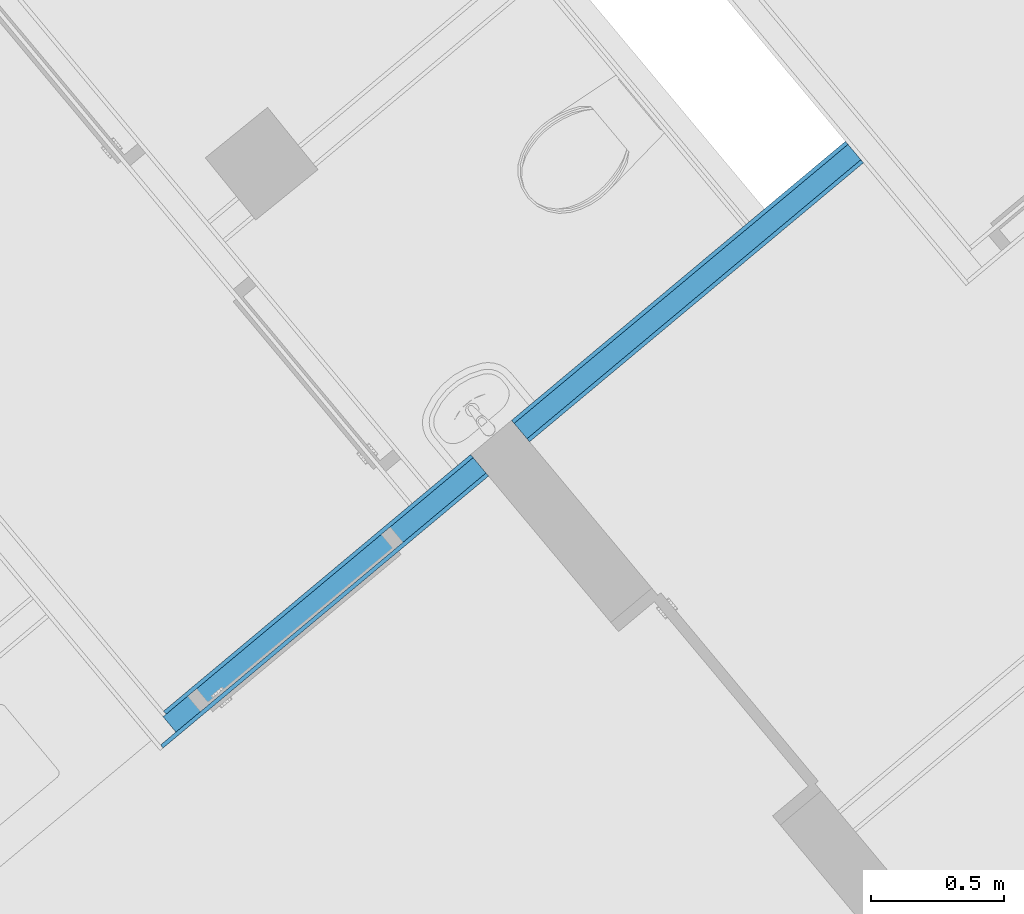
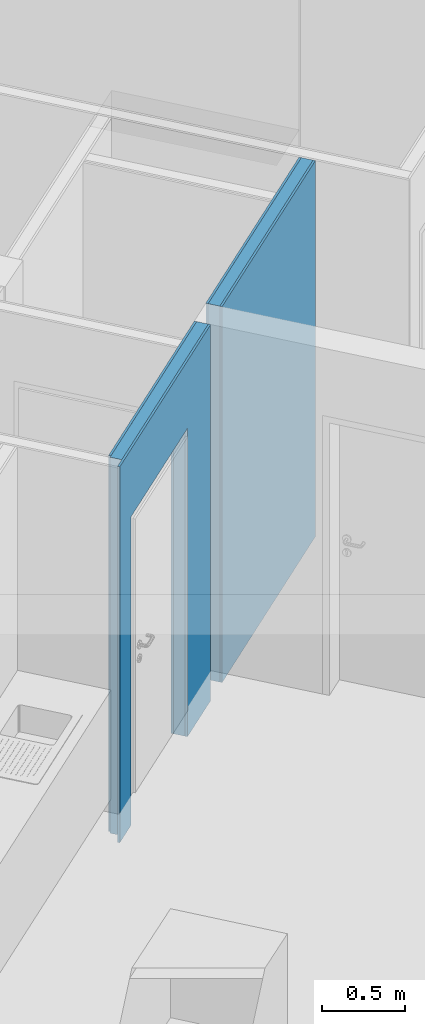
# One storey, part 9 of 50: 3 building element parts, 1 opening, 1 element without a shape of its own.
"""IFC4 building model written with IfcOpenShell, lengths in metres."""

from ifc_helpers import new_model, entity, si_unit, converted_unit, derived_unit, direction, frame, origin_with_axes, place, context, subcontext, project, spatial, polygons, material, type_object, element, aggregate, save


model = new_model("IFC4")

# Units and contexts
model_context = context("Model", 3, precision=1e-05, world=origin_with_axes(), true_north=direction((0.0, 1.0)))
body_context = subcontext(model_context, "Body", "Model", "MODEL_VIEW")
ifc_project = project(units=[si_unit("LENGTHUNIT", "METRE"), si_unit("AREAUNIT", "SQUARE_METRE"), si_unit("VOLUMEUNIT", "CUBIC_METRE"), converted_unit("PLANEANGLEUNIT", "DEGREE", entity("IfcPlaneAngleMeasure", 0.0174532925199), si_unit("PLANEANGLEUNIT", "RADIAN"), dimensions=[0, 0, 0, 0, 0, 0, 0]), converted_unit("TIMEUNIT", "Year", entity("IfcTimeMeasure", 31556926.0), si_unit("TIMEUNIT", "SECOND"), dimensions=[0, 0, 1, 0, 0, 0, 0]), si_unit("MASSUNIT", "GRAM", prefix="KILO"), si_unit("THERMODYNAMICTEMPERATUREUNIT", "DEGREE_CELSIUS"), si_unit("LUMINOUSINTENSITYUNIT", "LUMEN"), si_unit("ENERGYUNIT", "JOULE", prefix="MEGA"), derived_unit("THERMALCONDUCTANCEUNIT", [(si_unit("POWERUNIT", "WATT"), 1), (si_unit("LENGTHUNIT", "METRE"), -1), (si_unit("THERMODYNAMICTEMPERATUREUNIT", "KELVIN"), -1)]), derived_unit("SPECIFICHEATCAPACITYUNIT", [(si_unit("ENERGYUNIT", "JOULE"), 1), (si_unit("MASSUNIT", "GRAM", prefix="KILO"), -1), (si_unit("THERMODYNAMICTEMPERATUREUNIT", "KELVIN"), -1)]), derived_unit("MASSDENSITYUNIT", [(si_unit("MASSUNIT", "GRAM", prefix="KILO"), 1), (si_unit("VOLUMEUNIT", "CUBIC_METRE"), -1)])], contexts=[model_context])

# Site, building, storey
site_placement = place(None, frame((-0.00153261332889, -0.00661245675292, 0.0), z_axis=(0.0, 0.0, 1.0), x_axis=(1.0, 0.0, 0.0)))
site = spatial("IfcSite", under=ifc_project, at=site_placement, Name="Site", CompositionType="ELEMENT")
building_placement = place(site_placement, origin_with_axes())
building = spatial("IfcBuilding", under=site, at=building_placement, Name="Building", CompositionType="ELEMENT")
storey_placement = place(building_placement, frame((0.0, 0.0, 2.74), z_axis=(0.0, 0.0, 1.0), x_axis=(1.0, 0.0, 0.0)))
storey = spatial("IfcBuildingStorey", under=building, at=storey_placement, Name="OG1", CompositionType="ELEMENT", Elevation=2.74)

# Wall, opening, building element parts
wall_type = type_object("IfcWallType", Name="IW LB 01 Leichtbautrennwand einfach 10,5 cm 105", PredefinedType="NOTDEFINED")
wall_placement = place(storey_placement, frame((-2.08312731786, 16.7658353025, 0.0), z_axis=(0.0, 0.0, 1.0), x_axis=(0.767365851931, 0.641209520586, 0.0)))
wall = element("IfcWall", 1, at=wall_placement, inside=storey, type_object=wall_type, Name="Wand-012", PredefinedType="NOTDEFINED")
opening_placement = place(wall_placement, frame((0.704535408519, 0.0, 0.22), z_axis=(0.0, 0.0, 1.0), x_axis=(1.0, 0.0, 0.0)))
element("IfcOpeningElement", 2, at=opening_placement, cuts=wall, Name="Tür-017", context=body_context, identifier="Reference", shape_type="Tessellation", body=[
    polygons([(0.495, 1.6911768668, 2.045), (0.495, 1.6911768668, -0.22), (-0.495, 1.6911768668, -0.22), (-0.495, 1.6911768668, 2.045), (0.495, -1.7961768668, 2.045), (0.495, -1.7961768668, -0.22), (-0.495, -1.7961768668, -0.22), (-0.495, -1.7961768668, 2.045)], [[[1, 2, 3, 4]], [[5, 6, 2, 1]], [[6, 7, 3, 2]], [[7, 8, 4, 3]], [[8, 5, 1, 4]], [[7, 6, 5, 8]]], closed=True),
])
ifc_material_1 = material(Name="Gipskarton")
building_element_part_1_placement = place(wall_placement, origin_with_axes())
building_element_part_1 = element("IfcBuildingElementPart", 3, at=building_element_part_1_placement, material=ifc_material_1, Name="Gipskarton", PredefinedType="NOTDEFINED", context=body_context, shape_type="Tessellation", body=[
    polygons([(0.209535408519, -0.015, 0.22), (0.209535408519, -0.015, 2.265), (1.19953540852, -0.015, 2.265), (1.19953540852, -0.015, 0.22), (1.19953540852, -0.015, 0.0), (1.60433833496, -0.015, 0.0), (1.60433833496, -0.015, 2.76), (0.105, -0.015, 2.76), (0.105, -0.015, 0.0), (0.209535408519, -0.015, 0.0), (0.209535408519, 7.71001129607e-08, 0.22), (0.209535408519, -3.17419406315e-08, 2.265), (1.19953540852, -3.17419441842e-08, 2.265), (1.19953540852, -3.17419441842e-08, 0.22), (1.19953540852, -3.17419424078e-08, 0.0), (1.60433833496, 0.0, 0.0), (1.60433833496, 0.0, 2.76), (0.105, 0.0, 2.76), (0.105, 0.0, 0.0), (0.209535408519, 7.71001129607e-08, 0.0)], [[[1, 2, 3, 4, 5, 6, 7, 8, 9, 10]], [[2, 1, 11, 12]], [[3, 2, 12, 13]], [[4, 3, 13, 14]], [[4, 14, 15, 5]], [[15, 16, 6, 5]], [[7, 6, 16, 17]], [[17, 18, 8, 7]], [[8, 18, 19, 9]], [[10, 9, 19, 20]], [[11, 1, 10, 20]], [[12, 11, 20, 19, 18, 17, 16, 15, 14, 13]]], closed=True),
    polygons([(3.43502357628, 0.0, 2.76), (1.80433833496, 0.0, 2.76), (1.80433833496, -0.015, 2.76), (3.43502357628, -0.015, 2.76), (3.43502357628, 0.0, 0.0), (1.80433833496, 0.0, 0.0), (1.80433833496, -0.015, 0.0), (3.43502357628, -0.015, 0.0)], [[[1, 2, 3, 4]], [[5, 6, 2, 1]], [[3, 2, 6, 7]], [[4, 3, 7, 8]], [[4, 8, 5, 1]], [[8, 7, 6, 5]]], closed=True),
])
ifc_material_2 = material(Name="Mineralwolle weich")
building_element_part_2_placement = place(wall_placement, origin_with_axes())
building_element_part_2 = element("IfcBuildingElementPart", 4, at=building_element_part_2_placement, material=ifc_material_2, Name="Mineralwolle weich", PredefinedType="NOTDEFINED", context=body_context, shape_type="Tessellation", body=[
    polygons([(0.209535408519, -0.09, 0.22), (0.209535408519, -0.09, 2.265), (1.19953540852, -0.09, 2.265), (1.19953540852, -0.09, 0.22), (1.19953540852, -0.09, 0.0), (1.60433833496, -0.09, 0.0), (1.60433833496, -0.09, 2.76), (0.0899999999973, -0.09, 2.76), (0.0899999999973, -0.09, 0.0), (0.209535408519, -0.09, 0.0), (0.209535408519, -0.015, 0.22), (0.209535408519, -0.015, 2.265), (1.19953540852, -0.015, 2.265), (1.19953540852, -0.015, 0.22), (1.19953540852, -0.015, 0.0), (1.60433833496, -0.015, 0.0), (1.60433833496, -0.015, 2.76), (0.0899999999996, -0.015, 2.76), (0.0899999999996, -0.015, 0.0), (0.209535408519, -0.015, 0.0)], [[[1, 2, 3, 4, 5, 6, 7, 8, 9, 10]], [[2, 1, 11, 12]], [[3, 2, 12, 13]], [[4, 3, 13, 14]], [[4, 14, 15, 5]], [[15, 16, 6, 5]], [[7, 6, 16, 17]], [[17, 18, 8, 7]], [[8, 18, 19, 9]], [[10, 9, 19, 20]], [[11, 1, 10, 20]], [[12, 11, 20, 19, 18, 17, 16, 15, 14, 13]]], closed=True),
    polygons([(3.43502357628, -0.015, 2.76), (1.80433833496, -0.015, 2.76), (1.80433833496, -0.09, 2.76), (3.43502357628, -0.09, 2.76), (3.43502357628, -0.015, 0.0), (1.80433833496, -0.015, 0.0), (1.80433833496, -0.09, 0.0), (3.43502357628, -0.09, 0.0)], [[[1, 2, 3, 4]], [[5, 6, 2, 1]], [[3, 2, 6, 7]], [[4, 3, 7, 8]], [[4, 8, 5, 1]], [[8, 7, 6, 5]]], closed=True),
])
building_element_part_3_placement = place(wall_placement, origin_with_axes())
building_element_part_3 = element("IfcBuildingElementPart", 5, at=building_element_part_3_placement, material=ifc_material_1, Name="Gipskarton", PredefinedType="NOTDEFINED", context=body_context, shape_type="Tessellation", body=[
    polygons([(0.209535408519, -0.105, 0.22), (0.209535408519, -0.105, 2.265), (1.19953540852, -0.105, 2.265), (1.19953540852, -0.105, 0.22), (1.19953540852, -0.105, 0.0), (1.60433833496, -0.105, 0.0), (1.60433833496, -0.105, 2.76), (0.0149999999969, -0.105, 2.76), (0.0149999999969, -0.105, 0.0), (0.209535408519, -0.105, 0.0), (0.209535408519, -0.09, 0.22), (0.209535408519, -0.09, 2.265), (1.19953540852, -0.09, 2.265), (1.19953540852, -0.09, 0.22), (1.19953540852, -0.09, 0.0), (1.60433833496, -0.09, 0.0), (1.60433833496, -0.09, 2.76), (0.0149999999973, -0.09, 2.76), (0.0149999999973, -0.09, 0.0), (0.209535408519, -0.09, 0.0)], [[[1, 2, 3, 4, 5, 6, 7, 8, 9, 10]], [[2, 1, 11, 12]], [[3, 2, 12, 13]], [[4, 3, 13, 14]], [[4, 14, 15, 5]], [[15, 16, 6, 5]], [[7, 6, 16, 17]], [[17, 18, 8, 7]], [[8, 18, 19, 9]], [[10, 9, 19, 20]], [[11, 1, 10, 20]], [[12, 11, 20, 19, 18, 17, 16, 15, 14, 13]]], closed=True),
    polygons([(3.43502357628, -0.09, 2.76), (1.80433833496, -0.09, 2.76), (1.80433833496, -0.105, 2.76), (3.43502357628, -0.105, 2.76), (3.43502357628, -0.09, 0.0), (1.80433833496, -0.09, 0.0), (1.80433833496, -0.105, 0.0), (3.43502357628, -0.105, 0.0)], [[[1, 2, 3, 4]], [[5, 6, 2, 1]], [[3, 2, 6, 7]], [[4, 3, 7, 8]], [[4, 8, 5, 1]], [[8, 7, 6, 5]]], closed=True),
])
aggregate(wall, [building_element_part_1, building_element_part_2, building_element_part_3])

save(model, "model.ifc")
